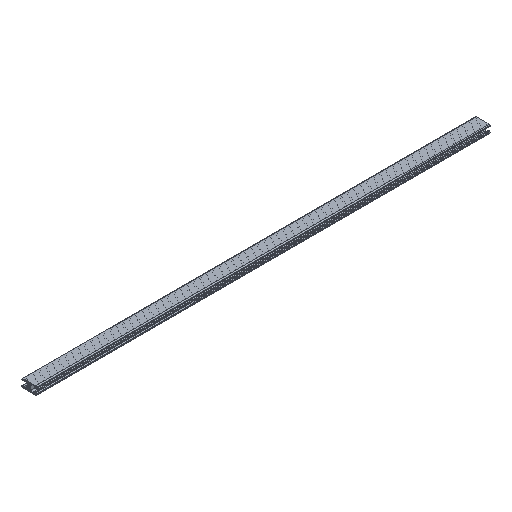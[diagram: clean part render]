
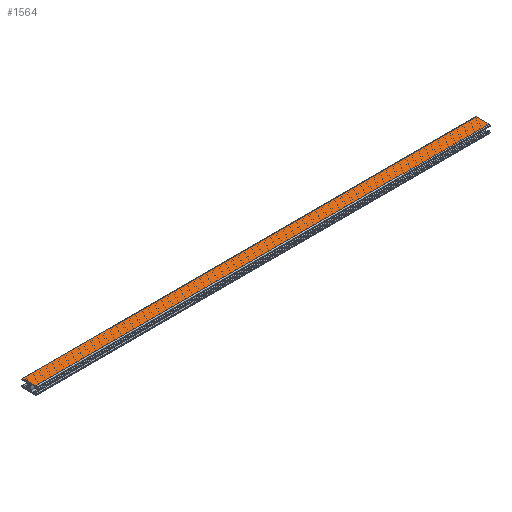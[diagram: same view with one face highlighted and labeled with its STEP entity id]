
A CAD part, isometric view. The second image highlights one B-rep face of the part: STEP entity #1564.
In plain terms, the highlighted planar face has unit normal (0, 0, 1).
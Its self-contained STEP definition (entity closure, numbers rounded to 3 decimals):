
#6 = LINE ( 'NONE', #275, #342 ) ;
#51 = LINE ( 'NONE', #638, #1142 ) ;
#82 = CARTESIAN_POINT ( 'NONE',  ( 1000., -14., 9. ) ) ;
#104 = VERTEX_POINT ( 'NONE', #1162 ) ;
#190 = CARTESIAN_POINT ( 'NONE',  ( 0., -14., 9. ) ) ;
#275 = CARTESIAN_POINT ( 'NONE',  ( 1000., 14., 9. ) ) ;
#277 = CARTESIAN_POINT ( 'NONE',  ( 1000., -14., 9. ) ) ;
#279 = VECTOR ( 'NONE', #965, 1000. ) ;
#281 = DIRECTION ( 'NONE',  ( 0., -1., 0. ) ) ;
#293 = VERTEX_POINT ( 'NONE', #190 ) ;
#342 = VECTOR ( 'NONE', #1007, 1000. ) ;
#405 = DIRECTION ( 'NONE',  ( -1., 0., 0. ) ) ;
#638 = CARTESIAN_POINT ( 'NONE',  ( 0., -14., 9. ) ) ;
#639 = ORIENTED_EDGE ( 'NONE', *, *, #1526, .F. ) ;
#930 = VERTEX_POINT ( 'NONE', #82 ) ;
#960 = DIRECTION ( 'NONE',  ( 0., -1., 0. ) ) ;
#965 = DIRECTION ( 'NONE',  ( -1., 0., 0. ) ) ;
#1007 = DIRECTION ( 'NONE',  ( -1., 0., 0. ) ) ;
#1067 = CARTESIAN_POINT ( 'NONE',  ( 1000., -14., 9. ) ) ;
#1125 = DIRECTION ( 'NONE',  ( 0., 0., -1. ) ) ;
#1142 = VECTOR ( 'NONE', #960, 1000. ) ;
#1159 = EDGE_CURVE ( 'NONE', #1197, #293, #51, .T. ) ;
#1162 = CARTESIAN_POINT ( 'NONE',  ( 1000., 14., 9. ) ) ;
#1171 = LINE ( 'NONE', #277, #1182 ) ;
#1182 = VECTOR ( 'NONE', #281, 1000. ) ;
#1197 = VERTEX_POINT ( 'NONE', #1389 ) ;
#1237 = PLANE ( 'NONE',  #1531 ) ;
#1319 = EDGE_CURVE ( 'NONE', #104, #1197, #6, .T. ) ;
#1389 = CARTESIAN_POINT ( 'NONE',  ( 0., 14., 9. ) ) ;
#1396 = LINE ( 'NONE', #1067, #279 ) ;
#1465 = EDGE_CURVE ( 'NONE', #104, #930, #1171, .T. ) ;
#1470 = ORIENTED_EDGE ( 'NONE', *, *, #1159, .T. ) ;
#1482 = FACE_OUTER_BOUND ( 'NONE', #1598, .T. ) ;
#1526 = EDGE_CURVE ( 'NONE', #930, #293, #1396, .T. ) ;
#1531 = AXIS2_PLACEMENT_3D ( 'NONE', #1589, #1125, #405 ) ;
#1564 = ADVANCED_FACE ( 'NONE', ( #1482 ), #1237, .F. ) ;
#1589 = CARTESIAN_POINT ( 'NONE',  ( 1000., -14., 9. ) ) ;
#1598 = EDGE_LOOP ( 'NONE', ( #1470, #639, #1689, #1626 ) ) ;
#1626 = ORIENTED_EDGE ( 'NONE', *, *, #1319, .T. ) ;
#1689 = ORIENTED_EDGE ( 'NONE', *, *, #1465, .F. ) ;
